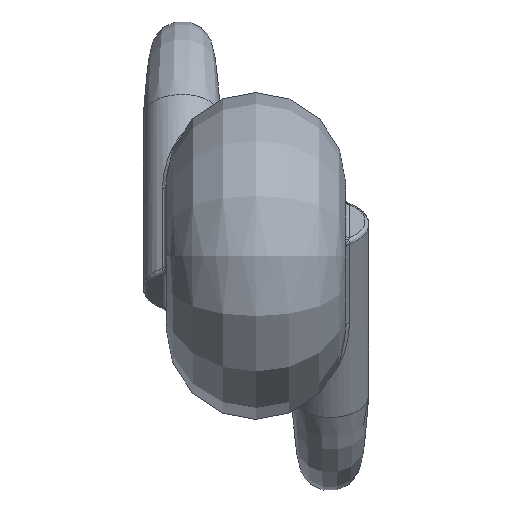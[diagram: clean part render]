
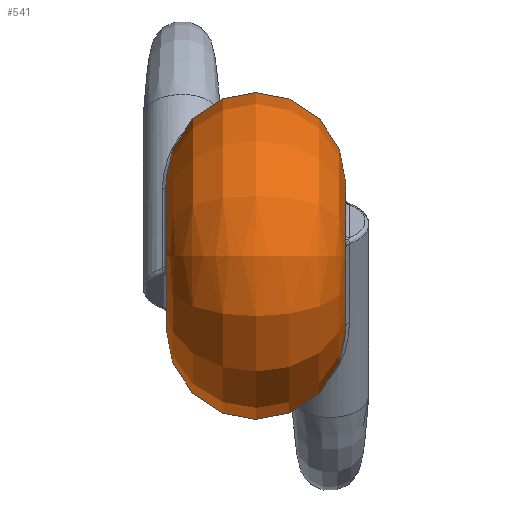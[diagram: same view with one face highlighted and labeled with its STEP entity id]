
A CAD part, left-side view. The second image highlights one B-rep face of the part: STEP entity #541.
In plain terms, the highlighted free-form (B-spline) face has degree [2, 2] with [5, 9] control points.
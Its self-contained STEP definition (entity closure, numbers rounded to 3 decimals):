
#14=(
BOUNDED_CURVE()
B_SPLINE_CURVE(2,(#1826,#1827,#1828,#1829,#1830),.UNSPECIFIED.,.F.,.F.)
B_SPLINE_CURVE_WITH_KNOTS((3,2,3),(-1.571,0.,1.571),
 .UNSPECIFIED.)
CURVE()
GEOMETRIC_REPRESENTATION_ITEM()
RATIONAL_B_SPLINE_CURVE((1.,0.707,1.,0.707,1.))
REPRESENTATION_ITEM('')
);
#15=(
BOUNDED_SURFACE()
B_SPLINE_SURFACE(2,2,((#1780,#1781,#1782,#1783,#1784,#1785,#1786,#1787,
#1788),(#1789,#1790,#1791,#1792,#1793,#1794,#1795,#1796,#1797),(#1798,#1799,
#1800,#1801,#1802,#1803,#1804,#1805,#1806),(#1807,#1808,#1809,#1810,#1811,
#1812,#1813,#1814,#1815),(#1816,#1817,#1818,#1819,#1820,#1821,#1822,#1823,
#1824)),.UNSPECIFIED.,.F.,.T.,.F.)
B_SPLINE_SURFACE_WITH_KNOTS((3,2,3),(3,2,2,2,3),(-1.571,0.,1.571),
(-3.142,-1.571,0.,1.571,3.142),
 .UNSPECIFIED.)
GEOMETRIC_REPRESENTATION_ITEM()
RATIONAL_B_SPLINE_SURFACE(((1.,0.707,1.,0.707,1.,
0.707,1.,0.707,1.),(0.707,0.5,0.707,
0.5,0.707,0.5,0.707,0.5,0.707),(1.,
0.707,1.,0.707,1.,0.707,1.,0.707,
1.),(0.707,0.5,0.707,0.5,0.707,0.5,
0.707,0.5,0.707),(1.,0.707,1.,0.707,
1.,0.707,1.,0.707,1.)))
REPRESENTATION_ITEM('')
SURFACE()
);
#78=B_SPLINE_CURVE_WITH_KNOTS('',3,(#1762,#1763,#1764,#1765,#1766,#1767,
#1768,#1769,#1770,#1771,#1772,#1773),.UNSPECIFIED.,.F.,.F.,(4,1,1,1,1,1,
1,1,1,4),(-0.829,-0.711,-0.592,-0.474,
-0.415,-0.355,-0.296,-0.237,
-0.118,0.),.UNSPECIFIED.);
#79=B_SPLINE_CURVE_WITH_KNOTS('',3,(#1834,#1835,#1836,#1837,#1838,#1839,
#1840,#1841,#1842,#1843,#1844,#1845,#1846,#1847,#1848,#1849,#1850),
 .UNSPECIFIED.,.F.,.F.,(4,1,1,1,1,1,1,1,1,1,1,1,1,1,4),(-0.829,
-0.77,-0.711,-0.592,-0.533,
-0.474,-0.415,-0.355,-0.341,
-0.296,-0.237,-0.178,-0.118,
-0.059,0.),.UNSPECIFIED.);
#126=FACE_OUTER_BOUND('',#167,.T.);
#167=EDGE_LOOP('',(#432,#433,#434,#435,#436,#437,#438,#439));
#204=CIRCLE('',#595,1.895);
#205=CIRCLE('',#596,1.895);
#206=CIRCLE('',#597,1.895);
#207=CIRCLE('',#598,1.895);
#246=VERTEX_POINT('',#1697);
#247=VERTEX_POINT('',#1760);
#248=VERTEX_POINT('',#1777);
#249=VERTEX_POINT('',#1825);
#250=VERTEX_POINT('',#1831);
#251=VERTEX_POINT('',#1833);
#311=EDGE_CURVE('',#247,#246,#78,.T.);
#313=EDGE_CURVE('',#247,#248,#204,.T.);
#314=EDGE_CURVE('',#248,#246,#205,.T.);
#315=EDGE_CURVE('',#248,#249,#14,.T.);
#316=EDGE_CURVE('',#250,#249,#206,.T.);
#317=EDGE_CURVE('',#250,#251,#79,.T.);
#318=EDGE_CURVE('',#249,#251,#207,.T.);
#432=ORIENTED_EDGE('',*,*,#311,.T.);
#433=ORIENTED_EDGE('',*,*,#314,.F.);
#434=ORIENTED_EDGE('',*,*,#315,.T.);
#435=ORIENTED_EDGE('',*,*,#316,.F.);
#436=ORIENTED_EDGE('',*,*,#317,.T.);
#437=ORIENTED_EDGE('',*,*,#318,.F.);
#438=ORIENTED_EDGE('',*,*,#315,.F.);
#439=ORIENTED_EDGE('',*,*,#313,.F.);
#541=ADVANCED_FACE('',(#126),#15,.T.);
#595=AXIS2_PLACEMENT_3D('',#1778,#708,#709);
#596=AXIS2_PLACEMENT_3D('',#1779,#710,#711);
#597=AXIS2_PLACEMENT_3D('',#1832,#712,#713);
#598=AXIS2_PLACEMENT_3D('',#1851,#714,#715);
#708=DIRECTION('center_axis',(0.,1.,0.));
#709=DIRECTION('ref_axis',(-1.,0.,0.));
#710=DIRECTION('center_axis',(0.,1.,0.));
#711=DIRECTION('ref_axis',(-1.,0.,0.));
#712=DIRECTION('center_axis',(0.,-1.,0.));
#713=DIRECTION('ref_axis',(-1.,0.,0.));
#714=DIRECTION('center_axis',(0.,-1.,0.));
#715=DIRECTION('ref_axis',(-1.,0.,0.));
#1697=CARTESIAN_POINT('',(0.532,3.8,1.819));
#1760=CARTESIAN_POINT('',(1.89,3.8,0.144));
#1762=CARTESIAN_POINT('Ctrl Pts',(1.89,3.8,0.144));
#1763=CARTESIAN_POINT('Ctrl Pts',(2.096,3.8,0.465));
#1764=CARTESIAN_POINT('Ctrl Pts',(2.562,3.714,1.051));
#1765=CARTESIAN_POINT('Ctrl Pts',(3.226,3.109,1.73));
#1766=CARTESIAN_POINT('Ctrl Pts',(3.262,2.4,2.411));
#1767=CARTESIAN_POINT('Ctrl Pts',(2.839,2.109,3.));
#1768=CARTESIAN_POINT('Ctrl Pts',(2.377,2.157,3.362));
#1769=CARTESIAN_POINT('Ctrl Pts',(1.909,2.461,3.524));
#1770=CARTESIAN_POINT('Ctrl Pts',(1.417,3.025,3.401));
#1771=CARTESIAN_POINT('Ctrl Pts',(1.065,3.638,2.769));
#1772=CARTESIAN_POINT('Ctrl Pts',(0.75,3.8,2.113));
#1773=CARTESIAN_POINT('Ctrl Pts',(0.532,3.8,1.819));
#1777=CARTESIAN_POINT('',(-1.895,3.8,0.));
#1778=CARTESIAN_POINT('Origin',(0.,3.8,0.));
#1779=CARTESIAN_POINT('Origin',(0.,3.8,0.));
#1780=CARTESIAN_POINT('Ctrl Pts',(-1.895,-0.81,0.));
#1781=CARTESIAN_POINT('Ctrl Pts',(-1.895,-0.81,-1.895));
#1782=CARTESIAN_POINT('Ctrl Pts',(0.,-0.81,-1.895));
#1783=CARTESIAN_POINT('Ctrl Pts',(1.895,-0.81,-1.895));
#1784=CARTESIAN_POINT('Ctrl Pts',(1.895,-0.81,0.));
#1785=CARTESIAN_POINT('Ctrl Pts',(1.895,-0.81,1.895));
#1786=CARTESIAN_POINT('Ctrl Pts',(0.,-0.81,1.895));
#1787=CARTESIAN_POINT('Ctrl Pts',(-1.895,-0.81,1.895));
#1788=CARTESIAN_POINT('Ctrl Pts',(-1.895,-0.81,0.));
#1789=CARTESIAN_POINT('Ctrl Pts',(-4.2,-0.81,0.));
#1790=CARTESIAN_POINT('Ctrl Pts',(-4.2,-0.81,-4.2));
#1791=CARTESIAN_POINT('Ctrl Pts',(0.,-0.81,-4.2));
#1792=CARTESIAN_POINT('Ctrl Pts',(4.2,-0.81,-4.2));
#1793=CARTESIAN_POINT('Ctrl Pts',(4.2,-0.81,0.));
#1794=CARTESIAN_POINT('Ctrl Pts',(4.2,-0.81,4.2));
#1795=CARTESIAN_POINT('Ctrl Pts',(0.,-0.81,4.2));
#1796=CARTESIAN_POINT('Ctrl Pts',(-4.2,-0.81,4.2));
#1797=CARTESIAN_POINT('Ctrl Pts',(-4.2,-0.81,0.));
#1798=CARTESIAN_POINT('Ctrl Pts',(-4.2,1.495,0.));
#1799=CARTESIAN_POINT('Ctrl Pts',(-4.2,1.495,-4.2));
#1800=CARTESIAN_POINT('Ctrl Pts',(0.,1.495,-4.2));
#1801=CARTESIAN_POINT('Ctrl Pts',(4.2,1.495,-4.2));
#1802=CARTESIAN_POINT('Ctrl Pts',(4.2,1.495,0.));
#1803=CARTESIAN_POINT('Ctrl Pts',(4.2,1.495,4.2));
#1804=CARTESIAN_POINT('Ctrl Pts',(0.,1.495,4.2));
#1805=CARTESIAN_POINT('Ctrl Pts',(-4.2,1.495,4.2));
#1806=CARTESIAN_POINT('Ctrl Pts',(-4.2,1.495,0.));
#1807=CARTESIAN_POINT('Ctrl Pts',(-4.2,3.8,0.));
#1808=CARTESIAN_POINT('Ctrl Pts',(-4.2,3.8,-4.2));
#1809=CARTESIAN_POINT('Ctrl Pts',(0.,3.8,-4.2));
#1810=CARTESIAN_POINT('Ctrl Pts',(4.2,3.8,-4.2));
#1811=CARTESIAN_POINT('Ctrl Pts',(4.2,3.8,0.));
#1812=CARTESIAN_POINT('Ctrl Pts',(4.2,3.8,4.2));
#1813=CARTESIAN_POINT('Ctrl Pts',(0.,3.8,4.2));
#1814=CARTESIAN_POINT('Ctrl Pts',(-4.2,3.8,4.2));
#1815=CARTESIAN_POINT('Ctrl Pts',(-4.2,3.8,0.));
#1816=CARTESIAN_POINT('Ctrl Pts',(-1.895,3.8,0.));
#1817=CARTESIAN_POINT('Ctrl Pts',(-1.895,3.8,-1.895));
#1818=CARTESIAN_POINT('Ctrl Pts',(0.,3.8,-1.895));
#1819=CARTESIAN_POINT('Ctrl Pts',(1.895,3.8,-1.895));
#1820=CARTESIAN_POINT('Ctrl Pts',(1.895,3.8,0.));
#1821=CARTESIAN_POINT('Ctrl Pts',(1.895,3.8,1.895));
#1822=CARTESIAN_POINT('Ctrl Pts',(0.,3.8,1.895));
#1823=CARTESIAN_POINT('Ctrl Pts',(-1.895,3.8,1.895));
#1824=CARTESIAN_POINT('Ctrl Pts',(-1.895,3.8,0.));
#1825=CARTESIAN_POINT('',(-1.895,-0.81,0.));
#1826=CARTESIAN_POINT('Ctrl Pts',(-1.895,3.8,0.));
#1827=CARTESIAN_POINT('Ctrl Pts',(-4.2,3.8,0.));
#1828=CARTESIAN_POINT('Ctrl Pts',(-4.2,1.495,0.));
#1829=CARTESIAN_POINT('Ctrl Pts',(-4.2,-0.81,0.));
#1830=CARTESIAN_POINT('Ctrl Pts',(-1.895,-0.81,0.));
#1831=CARTESIAN_POINT('',(1.89,-0.81,-0.144));
#1832=CARTESIAN_POINT('Origin',(0.,-0.81,0.));
#1833=CARTESIAN_POINT('',(0.532,-0.81,-1.819));
#1834=CARTESIAN_POINT('Ctrl Pts',(1.89,-0.81,-0.144));
#1835=CARTESIAN_POINT('Ctrl Pts',(1.993,-0.81,-0.304));
#1836=CARTESIAN_POINT('Ctrl Pts',(2.207,-0.792,-0.615));
#1837=CARTESIAN_POINT('Ctrl Pts',(2.677,-0.623,-1.161));
#1838=CARTESIAN_POINT('Ctrl Pts',(3.111,-0.218,-1.621));
#1839=CARTESIAN_POINT('Ctrl Pts',(3.25,0.303,-2.135));
#1840=CARTESIAN_POINT('Ctrl Pts',(3.154,0.665,-2.56));
#1841=CARTESIAN_POINT('Ctrl Pts',(2.839,0.88,-2.999));
#1842=CARTESIAN_POINT('Ctrl Pts',(2.493,0.846,-3.271));
#1843=CARTESIAN_POINT('Ctrl Pts',(2.182,0.707,-3.43));
#1844=CARTESIAN_POINT('Ctrl Pts',(1.879,0.494,-3.516));
#1845=CARTESIAN_POINT('Ctrl Pts',(1.541,0.109,-3.433));
#1846=CARTESIAN_POINT('Ctrl Pts',(1.275,-0.283,-3.147));
#1847=CARTESIAN_POINT('Ctrl Pts',(1.059,-0.584,-2.742));
#1848=CARTESIAN_POINT('Ctrl Pts',(0.834,-0.77,-2.276));
#1849=CARTESIAN_POINT('Ctrl Pts',(0.641,-0.81,-1.966));
#1850=CARTESIAN_POINT('Ctrl Pts',(0.532,-0.81,-1.819));
#1851=CARTESIAN_POINT('Origin',(0.,-0.81,0.));
